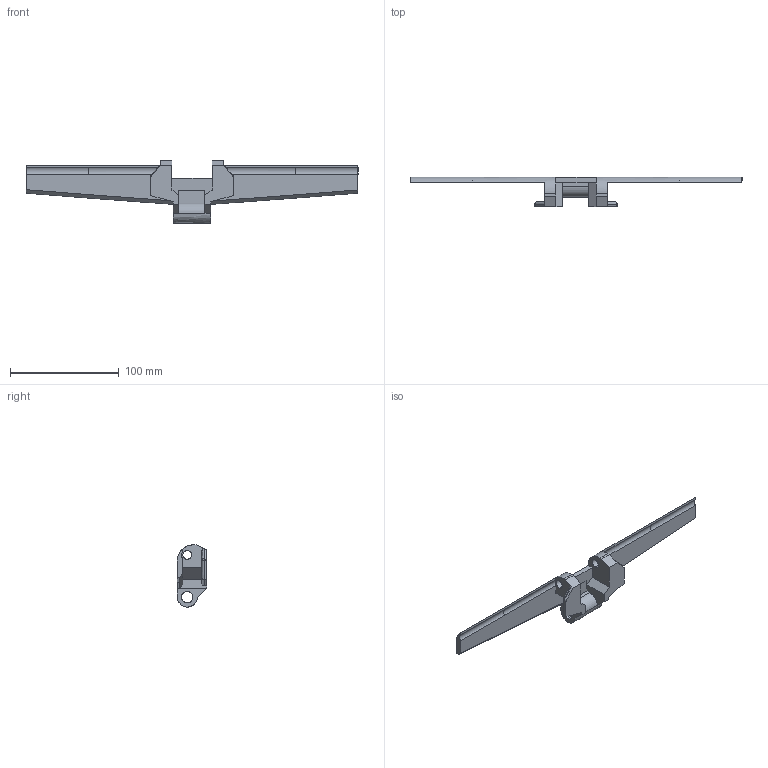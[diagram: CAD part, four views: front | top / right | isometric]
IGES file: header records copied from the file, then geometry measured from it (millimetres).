
Start section: SolidWorks IGES file using analytic representation for surfaces
Global section: file name: C:\Documents and Settings\URETIM3\Desktop\yeni katalog tolgay düzenli\D kataloðu\882 TAB KULAKLI DÖNÜÞLÜ BANT\882 TBK 304.IGS; native system: SolidWorks 2006 by SolidWorks Corporation; preprocessor: SolidWorks 2006 by SolidWorks Corporation; author: URETIM3; date: 060912.141236; units: millimetre
Bounding box: 304.8 x 27.2 x 57.2 mm (x, y, z)
Surface area: 29755.3 mm2 (no closed solid volume)
Topology: 0 solids, 0 shells, 84 faces, 850 edges, 850 vertices
Faces by surface type: bspline 55, revolution 29
